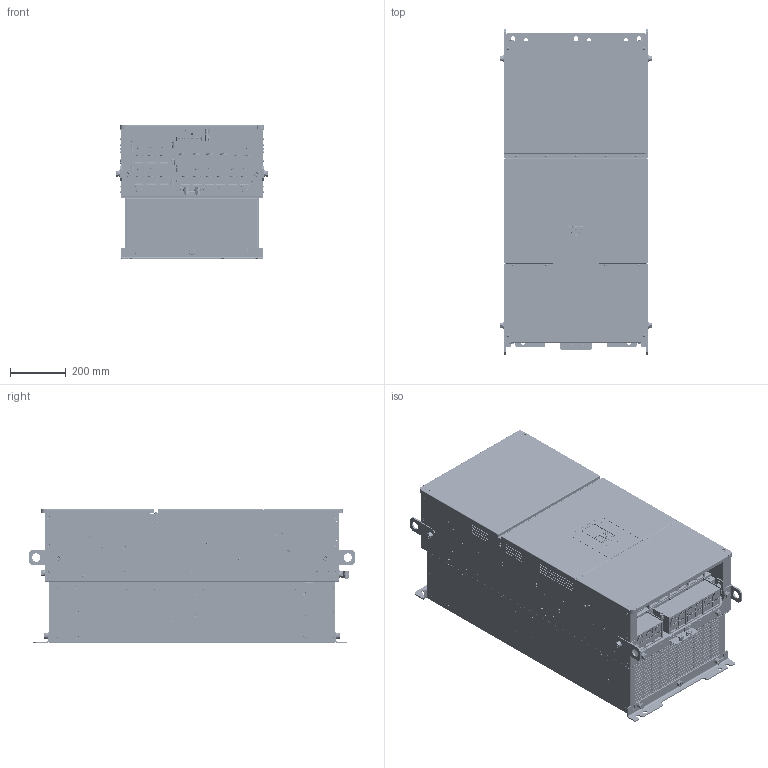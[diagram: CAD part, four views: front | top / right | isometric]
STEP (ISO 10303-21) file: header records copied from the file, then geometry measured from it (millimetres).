
FILE_DESCRIPTION((''),'2;1');
FILE_NAME('71617-GA70_C_4675_AB_B_Q_A_ASM','2017-06-08T',('m-mura'),('YASKAWA ELECTRIC CORCORATION'),'PRO/ENGINEER BY PARAMETRIC TECHNOLOGY CORPORATION, 2015110','PRO/ENGINEER BY PARAMETRIC TECHNOLOGY CORPORATION, 2015110','');
FILE_SCHEMA(('AUTOMOTIVE_DESIGN { 1 0 10303 214 1 1 1 1 }'));
Products named in the file (21): GA70_4675_BODY; GA70_4675_MTG_PLATE_TOP; GEM_OPEN_SCREW_M12X30; GA70_4675_MTG_PLATE_BOTTOM; GA70_4675_FAN; GA70_4675_FP1; GA70_ALL_TB_TYPEB; GEM_OPEN_SCREW_M3P5X6; GEM_OPEN_SCREW_M3X15; GA70_ALL_LED; GA70_4675_FP; GA70_4675_IP20_COVER; GA70_ALL_USB_COVER; GA70_ALL_CONNECTOR; GA70_ALL_LCD_OPERATOR; GA70_4675_TB_COVER1; GA70_4675_TB_COVER2; GA70_4675_TB_COVER3; GA70_4675_FP2; GA70_4675_SCREW_GND; 71617-GA70_C_4675_AB_B_Q_A_ASM
Assembly tree (27 placements, depth 2):
  71617-GA70_C_4675_AB_B_Q_A_ASM
    GA70_4675_BODY
    GA70_4675_MTG_PLATE_TOP
    GEM_OPEN_SCREW_M12X30  x6
    GA70_4675_MTG_PLATE_BOTTOM
    GA70_4675_FAN
    GA70_4675_FP1
    GA70_ALL_TB_TYPEB
    GEM_OPEN_SCREW_M3P5X6
    GEM_OPEN_SCREW_M3X15
    GA70_ALL_LED
    GA70_4675_FP
    GA70_4675_IP20_COVER
    GA70_ALL_USB_COVER
    GA70_ALL_CONNECTOR
    GA70_ALL_LCD_OPERATOR
    GA70_4675_TB_COVER1  x2
    GA70_4675_TB_COVER2
    GA70_4675_TB_COVER3
    GA70_4675_FP2
    GA70_4675_SCREW_GND  x2
Bounding box: 543.4 x 1167 x 482.5 mm (x, y, z)
Volume: 203183886.4 mm3; surface area: 6061781.1 mm2
Topology: 40 solids, 57 shells, 18558 faces, 47825 edges, 30438 vertices
Faces by surface type: plane 10728, cylinder 5445, cone 1434, torus 365, bspline 295, sphere 224, extrusion 67
Entity records: 703573 total; most frequent: CARTESIAN_POINT 126080, ORIENTED_EDGE 92834, DIRECTION 92724, EDGE_CURVE 46417, VECTOR 31050, LINE 30983, AXIS2_PLACEMENT_3D 30837, VERTEX_POINT 29668
